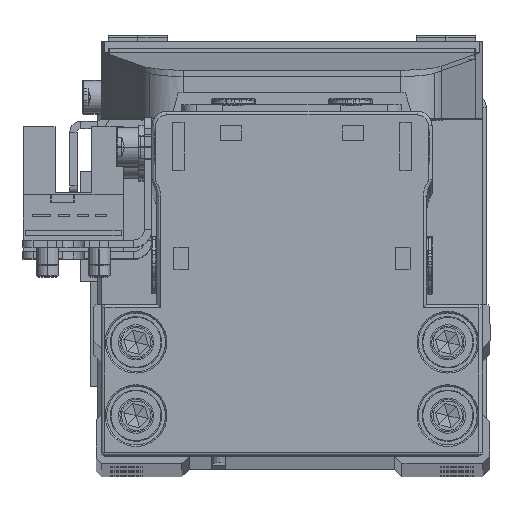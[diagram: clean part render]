
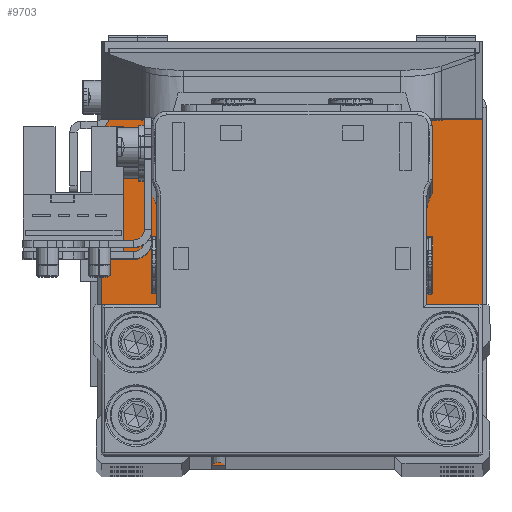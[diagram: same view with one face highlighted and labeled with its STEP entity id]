
A CAD part, top view. The second image highlights one B-rep face of the part: STEP entity #9703.
In plain terms, the highlighted planar face has unit normal (0, 0, 1).
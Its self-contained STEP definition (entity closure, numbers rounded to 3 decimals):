
#238 = VECTOR ( 'NONE', #17511, 1000. ) ;
#318 = FACE_BOUND ( 'NONE', #15140, .T. ) ;
#531 = EDGE_CURVE ( 'NONE', #32816, #22603, #6441, .T. ) ;
#838 = DIRECTION ( 'NONE',  ( 1., 0., 0. ) ) ;
#1060 = DIRECTION ( 'NONE',  ( -1., 0., 0. ) ) ;
#1268 = CARTESIAN_POINT ( 'NONE',  ( 21.25, 19.95, 6.5 ) ) ;
#1474 = EDGE_CURVE ( 'NONE', #8300, #5717, #29535, .T. ) ;
#1744 = CARTESIAN_POINT ( 'NONE',  ( -25., 24.95, 6.5 ) ) ;
#1846 = CARTESIAN_POINT ( 'NONE',  ( -18.85, 9.95, 6.5 ) ) ;
#1983 = ORIENTED_EDGE ( 'NONE', *, *, #4752, .T. ) ;
#2797 = DIRECTION ( 'NONE',  ( -1., 0., 0. ) ) ;
#2954 = FACE_BOUND ( 'NONE', #20213, .T. ) ;
#3072 = EDGE_CURVE ( 'NONE', #34676, #32922, #19003, .T. ) ;
#3078 = CIRCLE ( 'NONE', #22767, 2.4 ) ;
#3516 = ORIENTED_EDGE ( 'NONE', *, *, #27174, .T. ) ;
#3648 = VERTEX_POINT ( 'NONE', #20805 ) ;
#3813 = AXIS2_PLACEMENT_3D ( 'NONE', #31066, #6928, #17665 ) ;
#3861 = ORIENTED_EDGE ( 'NONE', *, *, #30596, .T. ) ;
#3983 = VERTEX_POINT ( 'NONE', #14937 ) ;
#4501 = CARTESIAN_POINT ( 'NONE',  ( -23.65, 19.95, 6.5 ) ) ;
#4752 = EDGE_CURVE ( 'NONE', #17309, #6839, #23573, .T. ) ;
#5488 = ORIENTED_EDGE ( 'NONE', *, *, #8700, .T. ) ;
#5527 = DIRECTION ( 'NONE',  ( 1., 0., 0. ) ) ;
#5717 = VERTEX_POINT ( 'NONE', #18681 ) ;
#5852 = DIRECTION ( 'NONE',  ( 1., 0., 0. ) ) ;
#5934 = EDGE_CURVE ( 'NONE', #24551, #22561, #23923, .T. ) ;
#5947 = CARTESIAN_POINT ( 'NONE',  ( -23.65, 9.95, 6.5 ) ) ;
#6441 = CIRCLE ( 'NONE', #26130, 2.4 ) ;
#6506 = AXIS2_PLACEMENT_3D ( 'NONE', #11990, #22725, #33464 ) ;
#6559 = VERTEX_POINT ( 'NONE', #20715 ) ;
#6703 = ORIENTED_EDGE ( 'NONE', *, *, #5934, .T. ) ;
#6735 = DIRECTION ( 'NONE',  ( -1., 0., 0. ) ) ;
#6779 = CARTESIAN_POINT ( 'NONE',  ( 26., 23.95, 6.5 ) ) ;
#6839 = VERTEX_POINT ( 'NONE', #27743 ) ;
#6928 = DIRECTION ( 'NONE',  ( 0., 0., -1. ) ) ;
#7787 = CIRCLE ( 'NONE', #27486, 2.4 ) ;
#8300 = VERTEX_POINT ( 'NONE', #25959 ) ;
#8415 = DIRECTION ( 'NONE',  ( 0., 0., 1. ) ) ;
#8700 = EDGE_CURVE ( 'NONE', #22603, #32816, #10158, .T. ) ;
#9240 = ORIENTED_EDGE ( 'NONE', *, *, #20804, .T. ) ;
#9362 = DIRECTION ( 'NONE',  ( 1., 0., 0. ) ) ;
#9407 = CIRCLE ( 'NONE', #29100, 1. ) ;
#9703 = ADVANCED_FACE ( 'NONE', ( #2954, #13690, #24442, #318, #11062 ), #21805, .T. ) ;
#10041 = DIRECTION ( 'NONE',  ( -1., 0., 0. ) ) ;
#10095 = VERTEX_POINT ( 'NONE', #29519 ) ;
#10158 = CIRCLE ( 'NONE', #29852, 2.4 ) ;
#10182 = DIRECTION ( 'NONE',  ( 0., -1., 0. ) ) ;
#10306 = CARTESIAN_POINT ( 'NONE',  ( 18.85, 19.95, 6.5 ) ) ;
#10408 = DIRECTION ( 'NONE',  ( 0., 0., -1. ) ) ;
#10583 = EDGE_LOOP ( 'NONE', ( #3516, #1983, #29109, #32590, #12204, #17558, #9240, #22586 ) ) ;
#11062 = FACE_OUTER_BOUND ( 'NONE', #10583, .T. ) ;
#11841 = EDGE_CURVE ( 'NONE', #25519, #3648, #18916, .T. ) ;
#11990 = CARTESIAN_POINT ( 'NONE',  ( 25., 23.95, 6.5 ) ) ;
#12010 = DIRECTION ( 'NONE',  ( 0., 0., -1. ) ) ;
#12204 = ORIENTED_EDGE ( 'NONE', *, *, #33730, .T. ) ;
#12479 = DIRECTION ( 'NONE',  ( -1., 0., 0. ) ) ;
#12640 = AXIS2_PLACEMENT_3D ( 'NONE', #1268, #12010, #22753 ) ;
#12959 = CARTESIAN_POINT ( 'NONE',  ( 21.25, 9.95, 6.5 ) ) ;
#13411 = AXIS2_PLACEMENT_3D ( 'NONE', #14206, #24962, #838 ) ;
#13690 = FACE_BOUND ( 'NONE', #20665, .T. ) ;
#14206 = CARTESIAN_POINT ( 'NONE',  ( -25., 23.95, 6.5 ) ) ;
#14326 = AXIS2_PLACEMENT_3D ( 'NONE', #12959, #23700, #34428 ) ;
#14421 = CARTESIAN_POINT ( 'NONE',  ( -21.25, 9.95, 6.5 ) ) ;
#14937 = CARTESIAN_POINT ( 'NONE',  ( -25., 24.95, 6.5 ) ) ;
#15140 = EDGE_LOOP ( 'NONE', ( #32908, #5488 ) ) ;
#15395 = EDGE_LOOP ( 'NONE', ( #30771, #6703 ) ) ;
#16171 = CARTESIAN_POINT ( 'NONE',  ( -21.25, 9.95, 6.5 ) ) ;
#16873 = CARTESIAN_POINT ( 'NONE',  ( -18.85, 19.95, 6.5 ) ) ;
#17041 = ORIENTED_EDGE ( 'NONE', *, *, #17604, .T. ) ;
#17309 = VERTEX_POINT ( 'NONE', #18199 ) ;
#17511 = DIRECTION ( 'NONE',  ( 0., 1., 0. ) ) ;
#17558 = ORIENTED_EDGE ( 'NONE', *, *, #30072, .T. ) ;
#17604 = EDGE_CURVE ( 'NONE', #32922, #34676, #27842, .T. ) ;
#17665 = DIRECTION ( 'NONE',  ( -1., 0., 0. ) ) ;
#18199 = CARTESIAN_POINT ( 'NONE',  ( -26., 23.95, 6.5 ) ) ;
#18216 = EDGE_CURVE ( 'NONE', #6559, #3983, #25883, .T. ) ;
#18322 = CARTESIAN_POINT ( 'NONE',  ( -25., -24.95, 6.5 ) ) ;
#18681 = CARTESIAN_POINT ( 'NONE',  ( 23.65, 9.95, 6.5 ) ) ;
#18916 = LINE ( 'NONE', #29667, #33138 ) ;
#19003 = CIRCLE ( 'NONE', #3813, 2.4 ) ;
#19160 = DIRECTION ( 'NONE',  ( 1., 0., 0. ) ) ;
#19247 = CARTESIAN_POINT ( 'NONE',  ( -25., -23.95, 6.5 ) ) ;
#20118 = CARTESIAN_POINT ( 'NONE',  ( -21.25, 19.95, 6.5 ) ) ;
#20213 = EDGE_LOOP ( 'NONE', ( #17041, #22098 ) ) ;
#20665 = EDGE_LOOP ( 'NONE', ( #27378, #3861 ) ) ;
#20715 = CARTESIAN_POINT ( 'NONE',  ( 25., 24.95, 6.5 ) ) ;
#20804 = EDGE_CURVE ( 'NONE', #26339, #6559, #21697, .T. ) ;
#20805 = CARTESIAN_POINT ( 'NONE',  ( 25., -24.95, 6.5 ) ) ;
#21145 = DIRECTION ( 'NONE',  ( -1., 0., 0. ) ) ;
#21697 = CIRCLE ( 'NONE', #6506, 1. ) ;
#21805 = PLANE ( 'NONE',  #34310 ) ;
#22098 = ORIENTED_EDGE ( 'NONE', *, *, #3072, .T. ) ;
#22194 = EDGE_CURVE ( 'NONE', #6839, #25519, #9407, .T. ) ;
#22561 = VERTEX_POINT ( 'NONE', #5947 ) ;
#22586 = ORIENTED_EDGE ( 'NONE', *, *, #18216, .T. ) ;
#22603 = VERTEX_POINT ( 'NONE', #16873 ) ;
#22620 = CARTESIAN_POINT ( 'NONE',  ( 26., 23.95, 6.5 ) ) ;
#22725 = DIRECTION ( 'NONE',  ( 0., 0., 1. ) ) ;
#22735 = CARTESIAN_POINT ( 'NONE',  ( 25., -23.95, 6.5 ) ) ;
#22753 = DIRECTION ( 'NONE',  ( -1., 0., 0. ) ) ;
#22767 = AXIS2_PLACEMENT_3D ( 'NONE', #23416, #34151, #10041 ) ;
#23282 = AXIS2_PLACEMENT_3D ( 'NONE', #22735, #33474, #9362 ) ;
#23416 = CARTESIAN_POINT ( 'NONE',  ( 21.25, 9.95, 6.5 ) ) ;
#23573 = LINE ( 'NONE', #34304, #27138 ) ;
#23700 = DIRECTION ( 'NONE',  ( 0., 0., -1. ) ) ;
#23923 = CIRCLE ( 'NONE', #28422, 2.4 ) ;
#24442 = FACE_BOUND ( 'NONE', #15395, .T. ) ;
#24551 = VERTEX_POINT ( 'NONE', #1846 ) ;
#24962 = DIRECTION ( 'NONE',  ( 0., 0., 1. ) ) ;
#25190 = DIRECTION ( 'NONE',  ( 0., 0., -1. ) ) ;
#25519 = VERTEX_POINT ( 'NONE', #18322 ) ;
#25883 = LINE ( 'NONE', #1744, #33944 ) ;
#25959 = CARTESIAN_POINT ( 'NONE',  ( 18.85, 9.95, 6.5 ) ) ;
#26067 = LINE ( 'NONE', #6779, #238 ) ;
#26130 = AXIS2_PLACEMENT_3D ( 'NONE', #34511, #10408, #21145 ) ;
#26339 = VERTEX_POINT ( 'NONE', #22620 ) ;
#26947 = DIRECTION ( 'NONE',  ( 0., 0., -1. ) ) ;
#27062 = EDGE_CURVE ( 'NONE', #22561, #24551, #7787, .T. ) ;
#27138 = VECTOR ( 'NONE', #10182, 1000. ) ;
#27174 = EDGE_CURVE ( 'NONE', #3983, #17309, #28608, .T. ) ;
#27378 = ORIENTED_EDGE ( 'NONE', *, *, #1474, .T. ) ;
#27486 = AXIS2_PLACEMENT_3D ( 'NONE', #16171, #26947, #2797 ) ;
#27509 = CARTESIAN_POINT ( 'NONE',  ( 23.65, 19.95, 6.5 ) ) ;
#27743 = CARTESIAN_POINT ( 'NONE',  ( -26., -23.95, 6.5 ) ) ;
#27842 = CIRCLE ( 'NONE', #12640, 2.4 ) ;
#28422 = AXIS2_PLACEMENT_3D ( 'NONE', #14421, #25190, #1060 ) ;
#28608 = CIRCLE ( 'NONE', #13411, 1. ) ;
#29100 = AXIS2_PLACEMENT_3D ( 'NONE', #19247, #29993, #5852 ) ;
#29109 = ORIENTED_EDGE ( 'NONE', *, *, #22194, .T. ) ;
#29519 = CARTESIAN_POINT ( 'NONE',  ( 26., -23.95, 6.5 ) ) ;
#29535 = CIRCLE ( 'NONE', #14326, 2.4 ) ;
#29667 = CARTESIAN_POINT ( 'NONE',  ( 25., -24.95, 6.5 ) ) ;
#29852 = AXIS2_PLACEMENT_3D ( 'NONE', #20118, #30868, #6735 ) ;
#29993 = DIRECTION ( 'NONE',  ( 0., 0., 1. ) ) ;
#30072 = EDGE_CURVE ( 'NONE', #10095, #26339, #26067, .T. ) ;
#30596 = EDGE_CURVE ( 'NONE', #5717, #8300, #3078, .T. ) ;
#30771 = ORIENTED_EDGE ( 'NONE', *, *, #27062, .T. ) ;
#30868 = DIRECTION ( 'NONE',  ( 0., 0., -1. ) ) ;
#31066 = CARTESIAN_POINT ( 'NONE',  ( 21.25, 19.95, 6.5 ) ) ;
#32547 = CARTESIAN_POINT ( 'NONE',  ( 0., 0., 6.5 ) ) ;
#32590 = ORIENTED_EDGE ( 'NONE', *, *, #11841, .T. ) ;
#32816 = VERTEX_POINT ( 'NONE', #4501 ) ;
#32908 = ORIENTED_EDGE ( 'NONE', *, *, #531, .T. ) ;
#32922 = VERTEX_POINT ( 'NONE', #10306 ) ;
#33138 = VECTOR ( 'NONE', #5527, 1000. ) ;
#33464 = DIRECTION ( 'NONE',  ( 1., 0., 0. ) ) ;
#33474 = DIRECTION ( 'NONE',  ( 0., 0., 1. ) ) ;
#33730 = EDGE_CURVE ( 'NONE', #3648, #10095, #33953, .T. ) ;
#33944 = VECTOR ( 'NONE', #12479, 1000. ) ;
#33953 = CIRCLE ( 'NONE', #23282, 1. ) ;
#34151 = DIRECTION ( 'NONE',  ( 0., 0., -1. ) ) ;
#34304 = CARTESIAN_POINT ( 'NONE',  ( -26., -23.95, 6.5 ) ) ;
#34310 = AXIS2_PLACEMENT_3D ( 'NONE', #32547, #8415, #19160 ) ;
#34428 = DIRECTION ( 'NONE',  ( -1., 0., 0. ) ) ;
#34511 = CARTESIAN_POINT ( 'NONE',  ( -21.25, 19.95, 6.5 ) ) ;
#34676 = VERTEX_POINT ( 'NONE', #27509 ) ;
